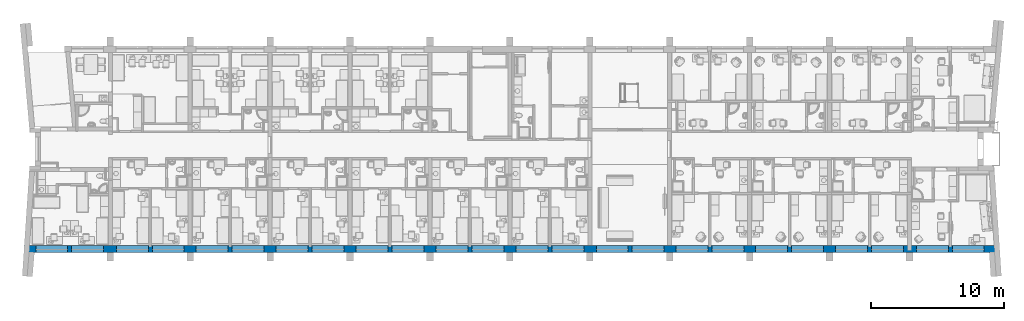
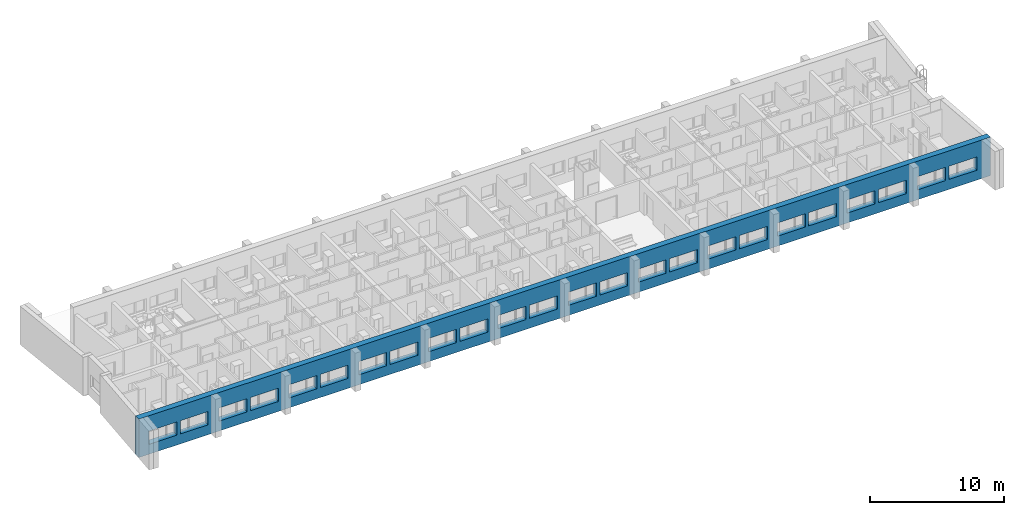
# One storey, part 11 of 152: 1 wall, 24 openings.
"""IFC2X3 building model written with IfcOpenShell, lengths in millimetres."""

from ifc_helpers import new_model, entity, si_unit, converted_unit, money_unit, direction, frame, origin_with_axes, place, context, subcontext, project, spatial, polyline, outline, extrude, material, layer, layer_set, layer_usage, type_object, element, save


model = new_model("IFC2X3")

# Units and contexts
model_context = context("Model", 3, precision=1e-05, world=origin_with_axes(), true_north=direction((0.0, 1.0)))
body_context = subcontext(model_context, "Body", "Model", "MODEL_VIEW")
ifc_project = project(units=[si_unit("LENGTHUNIT", "METRE", prefix="MILLI"), si_unit("AREAUNIT", "SQUARE_METRE"), si_unit("VOLUMEUNIT", "CUBIC_METRE"), converted_unit("PLANEANGLEUNIT", "DEGREE", entity("IfcPlaneAngleMeasure", 0.0174532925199), si_unit("PLANEANGLEUNIT", "RADIAN"), dimensions=[0, 0, 0, 0, 0, 0, 0]), si_unit("SOLIDANGLEUNIT", "STERADIAN"), money_unit("USD"), converted_unit("TIMEUNIT", "Year", entity("IfcTimeMeasure", 31556926.0), si_unit("TIMEUNIT", "SECOND"), dimensions=[0, 0, 0, 0, 0, 0, 0]), si_unit("MASSUNIT", "GRAM"), si_unit("THERMODYNAMICTEMPERATUREUNIT", "DEGREE_CELSIUS"), si_unit("LUMINOUSINTENSITYUNIT", "LUMEN")], contexts=[model_context])

# Site, building, storey
site_placement = place(None, origin_with_axes())
site = spatial("IfcSite", under=ifc_project, at=site_placement, Name="Site", CompositionType="ELEMENT")
building_placement = place(site_placement, origin_with_axes())
building = spatial("IfcBuilding", under=site, at=building_placement, Name="Building", CompositionType="ELEMENT")
storey_placement = place(building_placement, frame((0.0, 0.0, 9500.0), z_axis=(0.0, 0.0, 1.0), x_axis=(1.0, 0.0, 0.0)))
storey = spatial("IfcBuildingStorey", under=building, at=storey_placement, Name="5KORRUS", CompositionType="ELEMENT", Elevation=9500.0)

# Wall, openings
ifc_material = material(Name="Olemasolevad seinad tellis, uus viimistlus")
ifc_layer = layer(ifc_material, 500.0, ventilated="UNKNOWN")
ifc_layer_set = layer_set([ifc_layer], Name="Olemasolevad seinad tellis, uus viimistlus 500")
ifc_layer_usage = layer_usage(ifc_layer_set, "AXIS2", "POSITIVE", -400.0)
wall_type = type_object("IfcWallType", Name="Olemasolevad seinad tellis, uus viimistlus 500", PredefinedType="NOTDEFINED")
wall_placement = place(storey_placement, frame((-54605.6435345, -19739.2398994, 0.0), z_axis=(0.0, 0.0, 1.0), x_axis=(1.0, 0.0, 0.0)))
wall = element("IfcWallStandardCase", 1, at=wall_placement, inside=storey, type_object=wall_type, material=ifc_layer_usage, Name="VS1", ObjectType="VS1", context=body_context, shape_type="SweptSolid", body=[
    extrude(outline(polyline([(0.0, -400.0), (73230.6936624, -400.0), (73230.6936624, 100.0), (0.0, 100.0), (0.0, -400.0)])), origin_with_axes(), (0.0, 0.0, 1.0), 3500.0),
])
opening_1_placement = place(wall_placement, frame((2069.70351472, 0.0, 900.0), z_axis=(0.0, 0.0, 1.0), x_axis=(1.0, 0.0, 0.0)))
element("IfcOpeningElement", 2, at=opening_1_placement, cuts=wall, Name="A1", context=body_context, shape_type="SweptSolid", body=[
    extrude(outline(polyline([(1200.0, 1200.0), (-1200.0, 1200.0), (-1200.0, 0.0), (1200.0, 0.0), (1200.0, 1200.0)])), frame((0.0, -200.0, 0.0), z_axis=(0.0, 1.0, 0.0), x_axis=(-1.0, 0.0, 0.0)), (0.0, 0.0, 1.0), 800.0),
    extrude(outline(polyline([(1200.0, 0.0), (-1200.0, 0.0), (-1200.0, -1200.0), (1200.0, -1200.0), (1200.0, 0.0)])), frame((0.0, -200.0, 0.0), z_axis=(0.0, -1.0, 0.0), x_axis=(-1.0, 0.0, 0.0)), (0.0, 0.0, 1.0), 700.0),
])
opening_2_placement = place(wall_placement, frame((4769.70351472, 0.0, 900.0), z_axis=(0.0, 0.0, 1.0), x_axis=(1.0, 0.0, 0.0)))
element("IfcOpeningElement", 3, at=opening_2_placement, cuts=wall, Name="A2", context=body_context, shape_type="SweptSolid", body=[
    extrude(outline(polyline([(-1200.0, 1200.0), (-1200.0, 0.0), (1200.0, 0.0), (1200.0, 1200.0), (-1200.0, 1200.0)])), frame((0.0, -200.0, 0.0), z_axis=(0.0, 1.0, 0.0), x_axis=(-1.0, 0.0, 0.0)), (0.0, 0.0, 1.0), 800.0),
    extrude(outline(polyline([(-1200.0, 0.0), (-1200.0, -1200.0), (1200.0, -1200.0), (1200.0, 0.0), (-1200.0, 0.0)])), frame((0.0, -200.0, 0.0), z_axis=(0.0, -1.0, 0.0), x_axis=(-1.0, 0.0, 0.0)), (0.0, 0.0, 1.0), 700.0),
])
opening_3_placement = place(wall_placement, frame((8115.56153524, 0.0, 900.0), z_axis=(0.0, 0.0, 1.0), x_axis=(1.0, 0.0, 0.0)))
element("IfcOpeningElement", 4, at=opening_3_placement, cuts=wall, Name="A1", context=body_context, shape_type="SweptSolid", body=[
    extrude(outline(polyline([(1200.0, 1200.0), (-1200.0, 1200.0), (-1200.0, 0.0), (1200.0, 0.0), (1200.0, 1200.0)])), frame((0.0, -200.0, 0.0), z_axis=(0.0, 1.0, 0.0), x_axis=(-1.0, 0.0, 0.0)), (0.0, 0.0, 1.0), 800.0),
    extrude(outline(polyline([(1200.0, 0.0), (-1200.0, 0.0), (-1200.0, -1200.0), (1200.0, -1200.0), (1200.0, 0.0)])), frame((0.0, -200.0, 0.0), z_axis=(0.0, -1.0, 0.0), x_axis=(-1.0, 0.0, 0.0)), (0.0, 0.0, 1.0), 700.0),
])
opening_4_placement = place(wall_placement, frame((10815.5615352, 0.0, 900.0), z_axis=(0.0, 0.0, 1.0), x_axis=(1.0, 0.0, 0.0)))
element("IfcOpeningElement", 5, at=opening_4_placement, cuts=wall, Name="A2", context=body_context, shape_type="SweptSolid", body=[
    extrude(outline(polyline([(-1200.0, 1200.0), (-1200.0, 0.0), (1200.0, 0.0), (1200.0, 1200.0), (-1200.0, 1200.0)])), frame((0.0, -200.0, 0.0), z_axis=(0.0, 1.0, 0.0), x_axis=(-1.0, 0.0, 0.0)), (0.0, 0.0, 1.0), 800.0),
    extrude(outline(polyline([(-1200.0, 0.0), (-1200.0, -1200.0), (1200.0, -1200.0), (1200.0, 0.0), (-1200.0, 0.0)])), frame((0.0, -200.0, 0.0), z_axis=(0.0, -1.0, 0.0), x_axis=(-1.0, 0.0, 0.0)), (0.0, 0.0, 1.0), 700.0),
])
opening_5_placement = place(wall_placement, frame((14107.6936247, 0.0, 900.0), z_axis=(0.0, 0.0, 1.0), x_axis=(1.0, 0.0, 0.0)))
element("IfcOpeningElement", 6, at=opening_5_placement, cuts=wall, Name="A1", context=body_context, shape_type="SweptSolid", body=[
    extrude(outline(polyline([(1200.0, 1200.0), (-1200.0, 1200.0), (-1200.0, 0.0), (1200.0, 0.0), (1200.0, 1200.0)])), frame((0.0, -200.0, 0.0), z_axis=(0.0, 1.0, 0.0), x_axis=(-1.0, 0.0, 0.0)), (0.0, 0.0, 1.0), 800.0),
    extrude(outline(polyline([(1200.0, 0.0), (-1200.0, 0.0), (-1200.0, -1200.0), (1200.0, -1200.0), (1200.0, 0.0)])), frame((0.0, -200.0, 0.0), z_axis=(0.0, -1.0, 0.0), x_axis=(-1.0, 0.0, 0.0)), (0.0, 0.0, 1.0), 700.0),
])
opening_6_placement = place(wall_placement, frame((16807.6936247, 0.0, 900.0), z_axis=(0.0, 0.0, 1.0), x_axis=(1.0, 0.0, 0.0)))
element("IfcOpeningElement", 7, at=opening_6_placement, cuts=wall, Name="A2", context=body_context, shape_type="SweptSolid", body=[
    extrude(outline(polyline([(-1200.0, 1200.0), (-1200.0, 0.0), (1200.0, 0.0), (1200.0, 1200.0), (-1200.0, 1200.0)])), frame((0.0, -200.0, 0.0), z_axis=(0.0, 1.0, 0.0), x_axis=(-1.0, 0.0, 0.0)), (0.0, 0.0, 1.0), 800.0),
    extrude(outline(polyline([(-1200.0, 0.0), (-1200.0, -1200.0), (1200.0, -1200.0), (1200.0, 0.0), (-1200.0, 0.0)])), frame((0.0, -200.0, 0.0), z_axis=(0.0, -1.0, 0.0), x_axis=(-1.0, 0.0, 0.0)), (0.0, 0.0, 1.0), 700.0),
])
opening_7_placement = place(wall_placement, frame((20121.4429017, 0.0, 900.0), z_axis=(0.0, 0.0, 1.0), x_axis=(1.0, 0.0, 0.0)))
element("IfcOpeningElement", 8, at=opening_7_placement, cuts=wall, Name="A1", context=body_context, shape_type="SweptSolid", body=[
    extrude(outline(polyline([(1200.0, 1200.0), (-1200.0, 1200.0), (-1200.0, 0.0), (1200.0, 0.0), (1200.0, 1200.0)])), frame((0.0, -200.0, 0.0), z_axis=(0.0, 1.0, 0.0), x_axis=(-1.0, 0.0, 0.0)), (0.0, 0.0, 1.0), 800.0),
    extrude(outline(polyline([(1200.0, 0.0), (-1200.0, 0.0), (-1200.0, -1200.0), (1200.0, -1200.0), (1200.0, 0.0)])), frame((0.0, -200.0, 0.0), z_axis=(0.0, -1.0, 0.0), x_axis=(-1.0, 0.0, 0.0)), (0.0, 0.0, 1.0), 700.0),
])
opening_8_placement = place(wall_placement, frame((22821.4429017, 0.0, 900.0), z_axis=(0.0, 0.0, 1.0), x_axis=(1.0, 0.0, 0.0)))
element("IfcOpeningElement", 9, at=opening_8_placement, cuts=wall, Name="A2", context=body_context, shape_type="SweptSolid", body=[
    extrude(outline(polyline([(-1200.0, 1200.0), (-1200.0, 0.0), (1200.0, 0.0), (1200.0, 1200.0), (-1200.0, 1200.0)])), frame((0.0, -200.0, 0.0), z_axis=(0.0, 1.0, 0.0), x_axis=(-1.0, 0.0, 0.0)), (0.0, 0.0, 1.0), 800.0),
    extrude(outline(polyline([(-1200.0, 0.0), (-1200.0, -1200.0), (1200.0, -1200.0), (1200.0, 0.0), (-1200.0, 0.0)])), frame((0.0, -200.0, 0.0), z_axis=(0.0, -1.0, 0.0), x_axis=(-1.0, 0.0, 0.0)), (0.0, 0.0, 1.0), 700.0),
])
opening_9_placement = place(wall_placement, frame((26118.7584529, 0.0, 900.0), z_axis=(0.0, 0.0, 1.0), x_axis=(1.0, 0.0, 0.0)))
element("IfcOpeningElement", 10, at=opening_9_placement, cuts=wall, Name="A1", context=body_context, shape_type="SweptSolid", body=[
    extrude(outline(polyline([(1200.0, 1200.0), (-1200.0, 1200.0), (-1200.0, 0.0), (1200.0, 0.0), (1200.0, 1200.0)])), frame((0.0, -200.0, 0.0), z_axis=(0.0, 1.0, 0.0), x_axis=(-1.0, 0.0, 0.0)), (0.0, 0.0, 1.0), 800.0),
    extrude(outline(polyline([(1200.0, 0.0), (-1200.0, 0.0), (-1200.0, -1200.0), (1200.0, -1200.0), (1200.0, 0.0)])), frame((0.0, -200.0, 0.0), z_axis=(0.0, -1.0, 0.0), x_axis=(-1.0, 0.0, 0.0)), (0.0, 0.0, 1.0), 700.0),
])
opening_10_placement = place(wall_placement, frame((28818.7584529, 0.0, 900.0), z_axis=(0.0, 0.0, 1.0), x_axis=(1.0, 0.0, 0.0)))
element("IfcOpeningElement", 11, at=opening_10_placement, cuts=wall, Name="A2", context=body_context, shape_type="SweptSolid", body=[
    extrude(outline(polyline([(-1200.0, 1200.0), (-1200.0, 0.0), (1200.0, 0.0), (1200.0, 1200.0), (-1200.0, 1200.0)])), frame((0.0, -200.0, 0.0), z_axis=(0.0, 1.0, 0.0), x_axis=(-1.0, 0.0, 0.0)), (0.0, 0.0, 1.0), 800.0),
    extrude(outline(polyline([(-1200.0, 0.0), (-1200.0, -1200.0), (1200.0, -1200.0), (1200.0, 0.0), (-1200.0, 0.0)])), frame((0.0, -200.0, 0.0), z_axis=(0.0, -1.0, 0.0), x_axis=(-1.0, 0.0, 0.0)), (0.0, 0.0, 1.0), 700.0),
])
opening_11_placement = place(wall_placement, frame((32107.4199651, 0.0, 900.0), z_axis=(0.0, 0.0, 1.0), x_axis=(1.0, 0.0, 0.0)))
element("IfcOpeningElement", 12, at=opening_11_placement, cuts=wall, Name="A1", context=body_context, shape_type="SweptSolid", body=[
    extrude(outline(polyline([(1200.0, 1200.0), (-1200.0, 1200.0), (-1200.0, 0.0), (1200.0, 0.0), (1200.0, 1200.0)])), frame((0.0, -200.0, 0.0), z_axis=(0.0, 1.0, 0.0), x_axis=(-1.0, 0.0, 0.0)), (0.0, 0.0, 1.0), 800.0),
    extrude(outline(polyline([(1200.0, 0.0), (-1200.0, 0.0), (-1200.0, -1200.0), (1200.0, -1200.0), (1200.0, 0.0)])), frame((0.0, -200.0, 0.0), z_axis=(0.0, -1.0, 0.0), x_axis=(-1.0, 0.0, 0.0)), (0.0, 0.0, 1.0), 700.0),
])
opening_12_placement = place(wall_placement, frame((34807.4199651, 0.0, 900.0), z_axis=(0.0, 0.0, 1.0), x_axis=(1.0, 0.0, 0.0)))
element("IfcOpeningElement", 13, at=opening_12_placement, cuts=wall, Name="A2", context=body_context, shape_type="SweptSolid", body=[
    extrude(outline(polyline([(-1200.0, 1200.0), (-1200.0, 0.0), (1200.0, 0.0), (1200.0, 1200.0), (-1200.0, 1200.0)])), frame((0.0, -200.0, 0.0), z_axis=(0.0, 1.0, 0.0), x_axis=(-1.0, 0.0, 0.0)), (0.0, 0.0, 1.0), 800.0),
    extrude(outline(polyline([(-1200.0, 0.0), (-1200.0, -1200.0), (1200.0, -1200.0), (1200.0, 0.0), (-1200.0, 0.0)])), frame((0.0, -200.0, 0.0), z_axis=(0.0, -1.0, 0.0), x_axis=(-1.0, 0.0, 0.0)), (0.0, 0.0, 1.0), 700.0),
])
opening_13_placement = place(wall_placement, frame((38143.4602621, 0.0, 900.0), z_axis=(0.0, 0.0, 1.0), x_axis=(1.0, 0.0, 0.0)))
element("IfcOpeningElement", 14, at=opening_13_placement, cuts=wall, Name="A1", context=body_context, shape_type="SweptSolid", body=[
    extrude(outline(polyline([(1200.0, 1200.0), (-1200.0, 1200.0), (-1200.0, 0.0), (1200.0, 0.0), (1200.0, 1200.0)])), frame((0.0, -200.0, 0.0), z_axis=(0.0, 1.0, 0.0), x_axis=(-1.0, 0.0, 0.0)), (0.0, 0.0, 1.0), 800.0),
    extrude(outline(polyline([(1200.0, 0.0), (-1200.0, 0.0), (-1200.0, -1200.0), (1200.0, -1200.0), (1200.0, 0.0)])), frame((0.0, -200.0, 0.0), z_axis=(0.0, -1.0, 0.0), x_axis=(-1.0, 0.0, 0.0)), (0.0, 0.0, 1.0), 700.0),
])
opening_14_placement = place(wall_placement, frame((40843.4602621, 0.0, 900.0), z_axis=(0.0, 0.0, 1.0), x_axis=(1.0, 0.0, 0.0)))
element("IfcOpeningElement", 15, at=opening_14_placement, cuts=wall, Name="A2", context=body_context, shape_type="SweptSolid", body=[
    extrude(outline(polyline([(-1200.0, 1200.0), (-1200.0, 0.0), (1200.0, 0.0), (1200.0, 1200.0), (-1200.0, 1200.0)])), frame((0.0, -200.0, 0.0), z_axis=(0.0, 1.0, 0.0), x_axis=(-1.0, 0.0, 0.0)), (0.0, 0.0, 1.0), 800.0),
    extrude(outline(polyline([(-1200.0, 0.0), (-1200.0, -1200.0), (1200.0, -1200.0), (1200.0, 0.0), (-1200.0, 0.0)])), frame((0.0, -200.0, 0.0), z_axis=(0.0, -1.0, 0.0), x_axis=(-1.0, 0.0, 0.0)), (0.0, 0.0, 1.0), 700.0),
])
opening_15_placement = place(wall_placement, frame((44153.3468312, 0.0, 900.0), z_axis=(0.0, 0.0, 1.0), x_axis=(1.0, 0.0, 0.0)))
element("IfcOpeningElement", 16, at=opening_15_placement, cuts=wall, Name="A1", context=body_context, shape_type="SweptSolid", body=[
    extrude(outline(polyline([(1200.0, 1200.0), (-1200.0, 1200.0), (-1200.0, 0.0), (1200.0, 0.0), (1200.0, 1200.0)])), frame((0.0, -200.0, 0.0), z_axis=(0.0, 1.0, 0.0), x_axis=(-1.0, 0.0, 0.0)), (0.0, 0.0, 1.0), 800.0),
    extrude(outline(polyline([(1200.0, 0.0), (-1200.0, 0.0), (-1200.0, -1200.0), (1200.0, -1200.0), (1200.0, 0.0)])), frame((0.0, -200.0, 0.0), z_axis=(0.0, -1.0, 0.0), x_axis=(-1.0, 0.0, 0.0)), (0.0, 0.0, 1.0), 700.0),
])
opening_16_placement = place(wall_placement, frame((50153.3468312, 0.0, 900.0), z_axis=(0.0, 0.0, 1.0), x_axis=(1.0, 0.0, 0.0)))
element("IfcOpeningElement", 17, at=opening_16_placement, cuts=wall, Name="A1", context=body_context, shape_type="SweptSolid", body=[
    extrude(outline(polyline([(1200.0, 1200.0), (-1200.0, 1200.0), (-1200.0, 0.0), (1200.0, 0.0), (1200.0, 1200.0)])), frame((0.0, -200.0, 0.0), z_axis=(0.0, 1.0, 0.0), x_axis=(-1.0, 0.0, 0.0)), (0.0, 0.0, 1.0), 800.0),
    extrude(outline(polyline([(1200.0, 0.0), (-1200.0, 0.0), (-1200.0, -1200.0), (1200.0, -1200.0), (1200.0, 0.0)])), frame((0.0, -200.0, 0.0), z_axis=(0.0, -1.0, 0.0), x_axis=(-1.0, 0.0, 0.0)), (0.0, 0.0, 1.0), 700.0),
])
opening_17_placement = place(wall_placement, frame((52853.3468312, 0.0, 900.0), z_axis=(0.0, 0.0, 1.0), x_axis=(1.0, 0.0, 0.0)))
element("IfcOpeningElement", 18, at=opening_17_placement, cuts=wall, Name="A2", context=body_context, shape_type="SweptSolid", body=[
    extrude(outline(polyline([(-1200.0, 1200.0), (-1200.0, 0.0), (1200.0, 0.0), (1200.0, 1200.0), (-1200.0, 1200.0)])), frame((0.0, -200.0, 0.0), z_axis=(0.0, 1.0, 0.0), x_axis=(-1.0, 0.0, 0.0)), (0.0, 0.0, 1.0), 800.0),
    extrude(outline(polyline([(-1200.0, 0.0), (-1200.0, -1200.0), (1200.0, -1200.0), (1200.0, 0.0), (-1200.0, 0.0)])), frame((0.0, -200.0, 0.0), z_axis=(0.0, -1.0, 0.0), x_axis=(-1.0, 0.0, 0.0)), (0.0, 0.0, 1.0), 700.0),
])
opening_18_placement = place(wall_placement, frame((56111.2469198, 0.0, 900.0), z_axis=(0.0, 0.0, 1.0), x_axis=(1.0, 0.0, 0.0)))
element("IfcOpeningElement", 19, at=opening_18_placement, cuts=wall, Name="A1", context=body_context, shape_type="SweptSolid", body=[
    extrude(outline(polyline([(1200.0, 1200.0), (-1200.0, 1200.0), (-1200.0, 0.0), (1200.0, 0.0), (1200.0, 1200.0)])), frame((0.0, -200.0, 0.0), z_axis=(0.0, 1.0, 0.0), x_axis=(-1.0, 0.0, 0.0)), (0.0, 0.0, 1.0), 800.0),
    extrude(outline(polyline([(1200.0, 0.0), (-1200.0, 0.0), (-1200.0, -1200.0), (1200.0, -1200.0), (1200.0, 0.0)])), frame((0.0, -200.0, 0.0), z_axis=(0.0, -1.0, 0.0), x_axis=(-1.0, 0.0, 0.0)), (0.0, 0.0, 1.0), 700.0),
])
opening_19_placement = place(wall_placement, frame((58811.2469198, 0.0, 900.0), z_axis=(0.0, 0.0, 1.0), x_axis=(1.0, 0.0, 0.0)))
element("IfcOpeningElement", 20, at=opening_19_placement, cuts=wall, Name="A2", context=body_context, shape_type="SweptSolid", body=[
    extrude(outline(polyline([(-1200.0, 1200.0), (-1200.0, 0.0), (1200.0, 0.0), (1200.0, 1200.0), (-1200.0, 1200.0)])), frame((0.0, -200.0, 0.0), z_axis=(0.0, 1.0, 0.0), x_axis=(-1.0, 0.0, 0.0)), (0.0, 0.0, 1.0), 800.0),
    extrude(outline(polyline([(-1200.0, 0.0), (-1200.0, -1200.0), (1200.0, -1200.0), (1200.0, 0.0), (-1200.0, 0.0)])), frame((0.0, -200.0, 0.0), z_axis=(0.0, -1.0, 0.0), x_axis=(-1.0, 0.0, 0.0)), (0.0, 0.0, 1.0), 700.0),
])
opening_20_placement = place(wall_placement, frame((46853.3468312, 0.0, 900.0), z_axis=(0.0, 0.0, 1.0), x_axis=(1.0, 0.0, 0.0)))
element("IfcOpeningElement", 21, at=opening_20_placement, cuts=wall, Name="A2", context=body_context, shape_type="SweptSolid", body=[
    extrude(outline(polyline([(-1200.0, 1200.0), (-1200.0, 0.0), (1200.0, 0.0), (1200.0, 1200.0), (-1200.0, 1200.0)])), frame((0.0, -200.0, 0.0), z_axis=(0.0, 1.0, 0.0), x_axis=(-1.0, 0.0, 0.0)), (0.0, 0.0, 1.0), 800.0),
    extrude(outline(polyline([(-1200.0, 0.0), (-1200.0, -1200.0), (1200.0, -1200.0), (1200.0, 0.0), (-1200.0, 0.0)])), frame((0.0, -200.0, 0.0), z_axis=(0.0, -1.0, 0.0), x_axis=(-1.0, 0.0, 0.0)), (0.0, 0.0, 1.0), 700.0),
])
opening_21_placement = place(wall_placement, frame((64811.2469198, 0.0, 900.0), z_axis=(0.0, 0.0, 1.0), x_axis=(1.0, 0.0, 0.0)))
element("IfcOpeningElement", 22, at=opening_21_placement, cuts=wall, Name="A2", context=body_context, shape_type="SweptSolid", body=[
    extrude(outline(polyline([(-1200.0, 1200.0), (-1200.0, 0.0), (1200.0, 0.0), (1200.0, 1200.0), (-1200.0, 1200.0)])), frame((0.0, -200.0, 0.0), z_axis=(0.0, 1.0, 0.0), x_axis=(-1.0, 0.0, 0.0)), (0.0, 0.0, 1.0), 800.0),
    extrude(outline(polyline([(-1200.0, 0.0), (-1200.0, -1200.0), (1200.0, -1200.0), (1200.0, 0.0), (-1200.0, 0.0)])), frame((0.0, -200.0, 0.0), z_axis=(0.0, -1.0, 0.0), x_axis=(-1.0, 0.0, 0.0)), (0.0, 0.0, 1.0), 700.0),
])
opening_22_placement = place(wall_placement, frame((62111.2469198, 0.0, 900.0), z_axis=(0.0, 0.0, 1.0), x_axis=(1.0, 0.0, 0.0)))
element("IfcOpeningElement", 23, at=opening_22_placement, cuts=wall, Name="A1", context=body_context, shape_type="SweptSolid", body=[
    extrude(outline(polyline([(1200.0, 1200.0), (-1200.0, 1200.0), (-1200.0, 0.0), (1200.0, 0.0), (1200.0, 1200.0)])), frame((0.0, -200.0, 0.0), z_axis=(0.0, 1.0, 0.0), x_axis=(-1.0, 0.0, 0.0)), (0.0, 0.0, 1.0), 800.0),
    extrude(outline(polyline([(1200.0, 0.0), (-1200.0, 0.0), (-1200.0, -1200.0), (1200.0, -1200.0), (1200.0, 0.0)])), frame((0.0, -200.0, 0.0), z_axis=(0.0, -1.0, 0.0), x_axis=(-1.0, 0.0, 0.0)), (0.0, 0.0, 1.0), 700.0),
])
opening_23_placement = place(wall_placement, frame((70880.9519825, 0.0, 900.0), z_axis=(0.0, 0.0, 1.0), x_axis=(1.0, 0.0, 0.0)))
element("IfcOpeningElement", 24, at=opening_23_placement, cuts=wall, Name="A2", context=body_context, shape_type="SweptSolid", body=[
    extrude(outline(polyline([(-1200.0, 1200.0), (-1200.0, 0.0), (1200.0, 0.0), (1200.0, 1200.0), (-1200.0, 1200.0)])), frame((0.0, -200.0, 0.0), z_axis=(0.0, 1.0, 0.0), x_axis=(-1.0, 0.0, 0.0)), (0.0, 0.0, 1.0), 800.0),
    extrude(outline(polyline([(-1200.0, 0.0), (-1200.0, -1200.0), (1200.0, -1200.0), (1200.0, 0.0), (-1200.0, 0.0)])), frame((0.0, -200.0, 0.0), z_axis=(0.0, -1.0, 0.0), x_axis=(-1.0, 0.0, 0.0)), (0.0, 0.0, 1.0), 700.0),
])
opening_24_placement = place(wall_placement, frame((68180.9519825, 0.0, 900.0), z_axis=(0.0, 0.0, 1.0), x_axis=(1.0, 0.0, 0.0)))
element("IfcOpeningElement", 25, at=opening_24_placement, cuts=wall, Name="A1", context=body_context, shape_type="SweptSolid", body=[
    extrude(outline(polyline([(1200.0, 1200.0), (-1200.0, 1200.0), (-1200.0, 0.0), (1200.0, 0.0), (1200.0, 1200.0)])), frame((0.0, -200.0, 0.0), z_axis=(0.0, 1.0, 0.0), x_axis=(-1.0, 0.0, 0.0)), (0.0, 0.0, 1.0), 800.0),
    extrude(outline(polyline([(1200.0, 0.0), (-1200.0, 0.0), (-1200.0, -1200.0), (1200.0, -1200.0), (1200.0, 0.0)])), frame((0.0, -200.0, 0.0), z_axis=(0.0, -1.0, 0.0), x_axis=(-1.0, 0.0, 0.0)), (0.0, 0.0, 1.0), 700.0),
])

save(model, "model.ifc")
